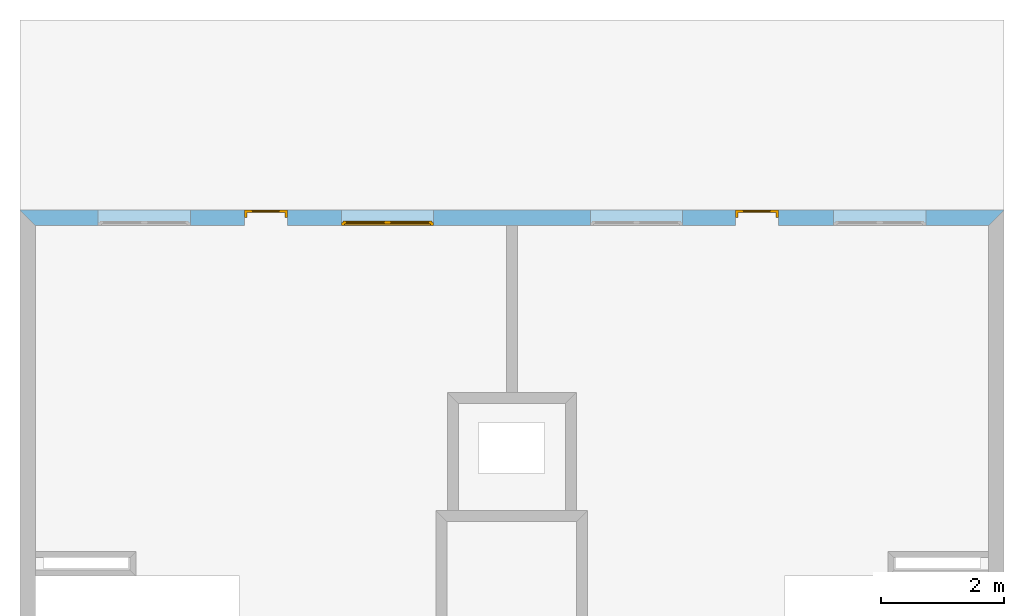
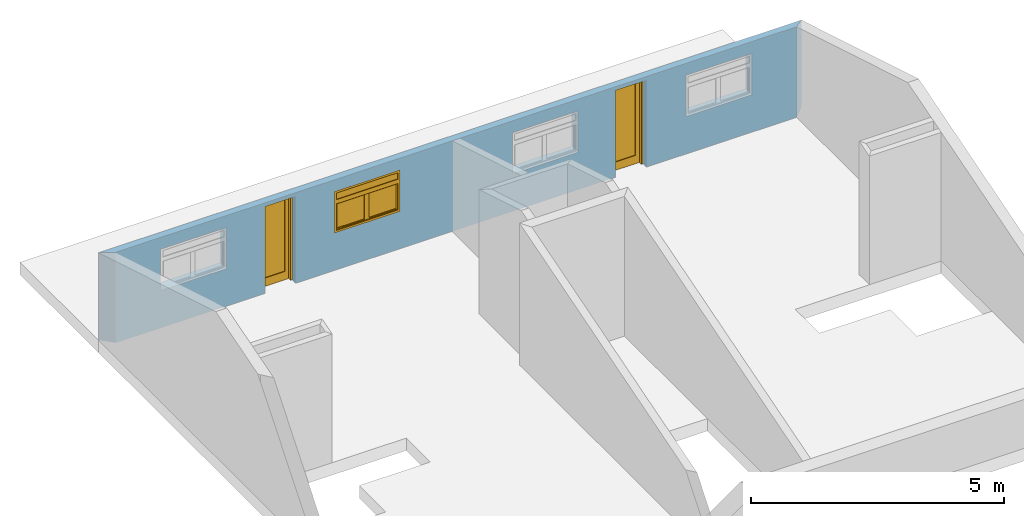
# One storey, part 3 of 3: 2 doors, 1 window, 6 openings, plus 1 element that does not belong to this part.
"""IFC2X3 building model written with IfcOpenShell, lengths in metres."""

from ifc_helpers import new_model, entity, si_unit, converted_unit, direction, frame, frame_2d, origin_with_axes, place, context, project, spatial, polyline, rectangle, outline, extrude, clip, bounded_halfspace, faceted_brep, material, layer, layer_set, layer_usage, type_object, element, fill, save


model = new_model("IFC2X3")

# Units and contexts
context_of_model = context(None, 3, precision=1e-05, world=origin_with_axes(), true_north=direction((6.123234e-17, 1.0)))
plan_context = context("Plan", 3, precision=1e-05, world=origin_with_axes(), true_north=direction((6.123234e-17, 1.0)))
model_context = context("Model", 3, precision=1e-05, world=origin_with_axes(), true_north=direction((6.123234e-17, 1.0)))
ifc_project = project(units=[si_unit("LENGTHUNIT", "METRE"), si_unit("AREAUNIT", "SQUARE_METRE"), si_unit("VOLUMEUNIT", "CUBIC_METRE"), converted_unit("PLANEANGLEUNIT", "DEGREE", entity("IfcPlaneAngleMeasure", 0.017453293), si_unit("PLANEANGLEUNIT", "RADIAN"), dimensions=[0, 0, 0, 0, 0, 0, 0]), si_unit("SOLIDANGLEUNIT", "STERADIAN"), si_unit("MASSUNIT", "GRAM"), si_unit("TIMEUNIT", "SECOND"), si_unit("THERMODYNAMICTEMPERATUREUNIT", "DEGREE_CELSIUS"), si_unit("LUMINOUSINTENSITYUNIT", "LUMEN")], contexts=[context_of_model, plan_context, model_context])

# Site, building, storey
site_placement = place(None, origin_with_axes())
site = spatial("IfcSite", under=ifc_project, at=site_placement, Name="Por defecto Sitio", CompositionType="ELEMENT")
building_placement = place(site_placement, origin_with_axes())
building = spatial("IfcBuilding", under=site, at=building_placement, Name="Por defecto Edificio", CompositionType="ELEMENT")
storey_placement = place(building_placement, frame((0.0, 0.0, 16.2), z_axis=(0.0, 0.0, 1.0), x_axis=(1.0, 0.0, 0.0)))
storey = spatial("IfcBuildingStorey", under=building, at=storey_placement, Name="Bajo cubierta", CompositionType="ELEMENT", Elevation=16.2)

# Wall, openings, doors, window
ifc_material = material(Name="Ladrillo común")
ifc_layer = layer(ifc_material, 0.25, ventilated="UNKNOWN")
ifc_layer_set = layer_set([ifc_layer], Name="Ladrillo común")
ifc_layer_usage = layer_usage(ifc_layer_set, "AXIS2", "POSITIVE", 0.0)
wall_type = type_object("IfcWallType", Name="Ladrillo común", PredefinedType="NOTDEFINED")
wall_placement = place(storey_placement, frame((16.03417, 12.372599, 0.0), z_axis=(0.0, 0.0, 1.0), x_axis=(-1.0, 0.0, 0.0)))
wall = element("IfcWallStandardCase", 1, at=wall_placement, inside=storey, type_object=wall_type, material=ifc_layer_usage, Name="Muro-018", context=context_of_model, shape_type="Clipping", body=[
    clip(extrude(outline(polyline([(0.0, 0.0), (16.03417, 0.0), (15.78417, 0.25), (0.25, 0.25), (0.0, 0.0)])), origin_with_axes(), (0.0, 0.0, 1.0), 3.5), bounded_halfspace(frame((2.9219849e-17, -0.58049391, 1.934887), z_axis=(1.4464632e-17, -0.28736052, 0.95782249), x_axis=(0.0, 0.95782249, 0.28736052)), False, origin_with_axes(), polyline([(16.03417, 4.6362995), (5.6488147e-13, 4.6362995), (5.6488147e-13, -0.40882873), (16.03417, -0.40882873), (16.03417, 4.6362995)]))),
])
opening_1_placement = place(wall_placement, frame((12.028221, 0.0, 0.0), z_axis=(0.0, 0.0, 1.0), x_axis=(1.0, 0.0, 0.0)))
opening_1 = element("IfcOpeningElement", 2, at=opening_1_placement, cuts=wall, ObjectType="Opening", context=model_context, shape_type="SweptSolid", body=[
    extrude(rectangle(XDim=0.7, YDim=2.1, at=frame_2d((0.0, 1.05), x_axis=(-1.0, 0.0))), frame((0.0, 0.0, 0.0), z_axis=(0.0, 1.0, 0.0), x_axis=(-1.0, 0.0, 0.0)), (0.0, 0.0, 1.0), 0.25),
])
opening_2_placement = place(wall_placement, frame((4.0278001, 0.0, 0.0), z_axis=(0.0, 0.0, 1.0), x_axis=(1.0, 0.0, 0.0)))
opening_2 = element("IfcOpeningElement", 3, at=opening_2_placement, cuts=wall, ObjectType="Opening", context=model_context, shape_type="SweptSolid", body=[
    extrude(rectangle(XDim=0.7, YDim=2.1, at=frame_2d((0.0, 1.05), x_axis=(-1.0, 0.0))), frame((0.0, 0.0, 0.0), z_axis=(0.0, 1.0, 0.0), x_axis=(-1.0, 0.0, 0.0)), (0.0, 0.0, 1.0), 0.25),
])
opening_3_placement = place(wall_placement, frame((5.9881821, 0.0, 0.9), z_axis=(0.0, 0.0, 1.0), x_axis=(1.0, 0.0, 0.0)))
element("IfcOpeningElement", 4, at=opening_3_placement, cuts=wall, ObjectType="Opening", context=model_context, shape_type="SweptSolid", body=[
    extrude(rectangle(XDim=1.5, YDim=1.0, at=frame_2d((0.0, 0.5), x_axis=(1.0, 0.0))), frame((0.0, 0.0, 0.0), z_axis=(0.0, 1.0, 0.0), x_axis=(-1.0, 0.0, 0.0)), (0.0, 0.0, 1.0), 0.25),
])
opening_4_placement = place(wall_placement, frame((2.024733, 0.0, 0.9), z_axis=(0.0, 0.0, 1.0), x_axis=(1.0, 0.0, 0.0)))
element("IfcOpeningElement", 5, at=opening_4_placement, cuts=wall, ObjectType="Opening", context=model_context, shape_type="SweptSolid", body=[
    extrude(rectangle(XDim=1.5, YDim=1.0, at=frame_2d((0.0, 0.5), x_axis=(-1.0, 0.0))), frame((0.0, 0.0, 0.0), z_axis=(0.0, 1.0, 0.0), x_axis=(-1.0, 0.0, 0.0)), (0.0, 0.0, 1.0), 0.25),
])
opening_5_placement = place(wall_placement, frame((10.046584, 0.0, 0.9), z_axis=(0.0, 0.0, 1.0), x_axis=(1.0, 0.0, 0.0)))
opening_5 = element("IfcOpeningElement", 6, at=opening_5_placement, cuts=wall, ObjectType="Opening", context=model_context, shape_type="SweptSolid", body=[
    extrude(rectangle(XDim=1.5, YDim=1.0, at=frame_2d((0.0, 0.5), x_axis=(-1.0, 0.0))), frame((0.0, 0.0, 0.0), z_axis=(0.0, 1.0, 0.0), x_axis=(-1.0, 0.0, 0.0)), (0.0, 0.0, 1.0), 0.25),
])
opening_6_placement = place(wall_placement, frame((14.009437, 0.0, 0.9), z_axis=(0.0, 0.0, 1.0), x_axis=(1.0, 0.0, 0.0)))
element("IfcOpeningElement", 7, at=opening_6_placement, cuts=wall, ObjectType="Opening", context=model_context, shape_type="SweptSolid", body=[
    extrude(rectangle(XDim=1.5, YDim=1.0, at=frame_2d((0.0, 0.5), x_axis=(1.0, 0.0))), frame((0.0, 0.0, 0.0), z_axis=(0.0, 1.0, 0.0), x_axis=(-1.0, 0.0, 0.0)), (0.0, 0.0, 1.0), 0.25),
])
door_style_1 = type_object("IfcDoorStyle", Name="P1 12", ConstructionType="NOTDEFINED", OperationType="SINGLE_SWING_RIGHT", ParameterTakesPrecedence=False, Sizeable=False)
door_1_placement = place(opening_1_placement, frame((0.35, 0.115, 0.0), z_axis=(0.0, 0.0, 1.0), x_axis=(-1.0, 0.0, 0.0)))
door_1 = element("IfcDoor", 8, at=door_1_placement, inside=storey, type_object=door_style_1, Name="P20", OverallHeight=2.1, OverallWidth=0.7, context=model_context, shape_type="Brep", body=[
    faceted_brep([(0.04, 0.075, 0.0), (0.04, 0.075, 2.06), (0.04, 1.7763568e-15, 2.06), (0.04, 1.7763568e-15, 0.0), (0.028, 0.075, 2.06), (0.028, 0.075, 0.0), (0.028, 0.115, 2.06), (-4.4408921e-16, 0.115, 2.06), (-4.4408921e-16, 1.7763568e-15, 2.06), (0.0, 0.0, 0.0), (-4.4408921e-16, 0.115, 0.0), (0.028, 0.115, 0.0)], [[[0, 1, 2, 3]], [[4, 1, 0, 5]], [[4, 6, 7, 8, 2, 1]], [[9, 3, 2, 8]], [[5, 0, 3, 9, 10, 11]], [[6, 4, 5, 11]], [[6, 11, 10, 7]], [[8, 7, 10, 9]]]),
    faceted_brep([(0.672, 0.075, 2.06), (0.66, 0.075, 2.06), (0.66, 1.7763568e-15, 2.06), (0.7, 1.7763568e-15, 2.06), (0.7, 0.115, 2.06), (0.672, 0.115, 2.06), (0.672, 0.075, 0.0), (0.66, 0.075, 0.0), (0.66, 1.7763568e-15, 0.0), (0.7, 1.7763568e-15, 0.0), (0.7, 0.115, 0.0), (0.672, 0.115, 0.0)], [[[0, 1, 2, 3, 4, 5]], [[1, 0, 6, 7]], [[1, 7, 8, 2]], [[8, 9, 3, 2]], [[9, 10, 4, 3]], [[11, 5, 4, 10]], [[0, 5, 11, 6]], [[6, 11, 10, 9, 8, 7]]]),
    faceted_brep([(0.028, 0.115, 2.072), (0.028, 0.115, 2.06), (-4.4408921e-16, 0.115, 2.06), (-4.4408921e-16, 0.115, 2.1), (0.7, 0.115, 2.1), (0.7, 0.115, 2.06), (0.672, 0.115, 2.06), (0.672, 0.115, 2.072), (0.028, 0.075, 2.072), (0.028, 0.075, 2.06), (0.04, 0.075, 2.06), (0.04, 1.7763568e-15, 2.06), (-4.4408921e-16, 1.7763568e-15, 2.06), (-4.4408921e-16, 1.7763568e-15, 2.1), (0.7, 1.7763568e-15, 2.1), (0.7, 1.7763568e-15, 2.06), (0.672, 0.075, 2.06), (0.66, 1.7763568e-15, 2.06), (0.66, 0.075, 2.06), (0.672, 0.075, 2.072)], [[[0, 1, 2, 3, 4, 5, 6, 7]], [[1, 0, 8, 9]], [[9, 10, 11, 12, 2, 1]], [[13, 3, 2, 12]], [[14, 4, 3, 13]], [[15, 5, 4, 14]], [[16, 6, 5, 15, 17, 18]], [[7, 6, 16, 19]], [[0, 7, 19, 8]], [[16, 18, 10, 9, 8, 19]], [[10, 18, 17, 11]], [[14, 13, 12, 11, 17, 15]]]),
    faceted_brep([(0.672, 0.115, 0.2), (0.672, 0.075, 0.2), (0.572, 0.075, 0.2), (0.572, 0.115, 0.2), (0.672, 0.115, 1.972), (0.672, 0.075, 1.972), (0.572, 0.075, 1.972), (0.572, 0.115, 1.972)], [[[0, 1, 2, 3]], [[4, 5, 1, 0]], [[1, 5, 6, 2]], [[3, 2, 6, 7]], [[0, 3, 7, 4]], [[7, 6, 5, 4]]]),
    faceted_brep([(0.028, 0.115, 0.2), (0.028, 0.075, 0.2), (0.028, 0.075, 1.972), (0.028, 0.115, 1.972), (0.128, 0.115, 0.2), (0.128, 0.075, 0.2), (0.128, 0.075, 1.972), (0.128, 0.115, 1.972)], [[[0, 1, 2, 3]], [[4, 5, 1, 0]], [[1, 5, 6, 2]], [[3, 2, 6, 7]], [[0, 3, 7, 4]], [[7, 6, 5, 4]]]),
    faceted_brep([(0.672, 0.115, 0.0), (0.672, 0.075, 0.0), (0.028, 0.075, 0.0), (0.028, 0.115, 0.0), (0.672, 0.115, 0.2), (0.672, 0.075, 0.2), (0.572, 0.075, 0.2), (0.128, 0.075, 0.2), (0.028, 0.075, 0.2), (0.028, 0.115, 0.2), (0.128, 0.115, 0.2), (0.572, 0.115, 0.2)], [[[0, 1, 2, 3]], [[4, 5, 1, 0]], [[1, 5, 6, 7, 8, 2]], [[3, 2, 8, 9]], [[0, 3, 9, 10, 11, 4]], [[11, 6, 5, 4]], [[10, 7, 6, 11]], [[9, 8, 7, 10]]]),
    faceted_brep([(0.672, 0.115, 2.072), (0.672, 0.075, 2.072), (0.672, 0.075, 1.972), (0.672, 0.115, 1.972), (0.028, 0.115, 2.072), (0.028, 0.075, 2.072), (0.028, 0.075, 1.972), (0.128, 0.075, 1.972), (0.572, 0.075, 1.972), (0.572, 0.115, 1.972), (0.128, 0.115, 1.972), (0.028, 0.115, 1.972)], [[[0, 1, 2, 3]], [[4, 5, 1, 0]], [[1, 5, 6, 7, 8, 2]], [[3, 2, 8, 9]], [[0, 3, 9, 10, 11, 4]], [[11, 6, 5, 4]], [[10, 7, 6, 11]], [[9, 8, 7, 10]]]),
    faceted_brep([(0.572, 0.101, 0.2), (0.572, 0.089, 0.2), (0.128, 0.089, 0.2), (0.128, 0.101, 0.2), (0.572, 0.101, 1.972), (0.572, 0.089, 1.972), (0.128, 0.089, 1.972), (0.128, 0.101, 1.972)], [[[0, 1, 2, 3]], [[4, 5, 1, 0]], [[1, 5, 6, 2]], [[3, 2, 6, 7]], [[0, 3, 7, 4]], [[7, 6, 5, 4]]]),
])
fill(opening_1, door_1)
door_style_2 = type_object("IfcDoorStyle", Name="P1 12", ConstructionType="NOTDEFINED", OperationType="SINGLE_SWING_LEFT", ParameterTakesPrecedence=False, Sizeable=False)
door_2_placement = place(opening_2_placement, frame((0.35, 0.115, 0.0), z_axis=(0.0, 0.0, 1.0), x_axis=(-1.0, 0.0, 0.0)))
door_2 = element("IfcDoor", 9, at=door_2_placement, inside=storey, type_object=door_style_2, Name="P21", OverallHeight=2.1, OverallWidth=0.7, context=model_context, shape_type="Brep", body=[
    faceted_brep([(0.66, 0.075, 0.0), (0.66, 0.0, 0.0), (0.66, 0.0, 2.06), (0.66, 0.075, 2.06), (0.672, 0.075, 0.0), (0.672, 0.115, 0.0), (0.7, 0.115, 0.0), (0.7, 0.0, 0.0), (0.7, 0.0, 2.06), (0.672, 0.075, 2.06), (0.7, 0.115, 2.06), (0.672, 0.115, 2.06)], [[[0, 1, 2, 3]], [[4, 5, 6, 7, 1, 0]], [[7, 8, 2, 1]], [[9, 3, 2, 8, 10, 11]], [[9, 4, 0, 3]], [[11, 5, 4, 9]], [[11, 10, 6, 5]], [[8, 7, 6, 10]]]),
    faceted_brep([(0.028, 0.075, 2.06), (0.028, 0.115, 2.06), (0.0, 0.115, 2.06), (0.0, 0.0, 2.06), (0.04, 0.0, 2.06), (0.04, 0.075, 2.06), (0.028, 0.075, 0.0), (0.028, 0.115, 0.0), (0.0, 0.115, 0.0), (0.0, 0.0, 0.0), (0.04, 0.0, 0.0), (0.04, 0.075, 0.0)], [[[0, 1, 2, 3, 4, 5]], [[0, 6, 7, 1]], [[7, 8, 2, 1]], [[9, 3, 2, 8]], [[10, 4, 3, 9]], [[5, 4, 10, 11]], [[5, 11, 6, 0]], [[6, 11, 10, 9, 8, 7]]]),
    faceted_brep([(0.672, 0.115, 2.072), (0.028, 0.115, 2.072), (0.028, 0.115, 2.06), (0.0, 0.115, 2.06), (0.0, 0.115, 2.1), (0.7, 0.115, 2.1), (0.7, 0.115, 2.06), (0.672, 0.115, 2.06), (0.672, 0.075, 2.072), (0.028, 0.075, 2.072), (0.028, 0.075, 2.06), (0.04, 0.075, 2.06), (0.04, 0.0, 2.06), (0.0, 0.0, 2.06), (0.0, 0.0, 2.1), (0.7, 0.0, 2.1), (0.7, 0.0, 2.06), (0.672, 0.075, 2.06), (0.66, 0.0, 2.06), (0.66, 0.075, 2.06)], [[[0, 1, 2, 3, 4, 5, 6, 7]], [[0, 8, 9, 1]], [[1, 9, 10, 2]], [[10, 11, 12, 13, 3, 2]], [[13, 14, 4, 3]], [[14, 15, 5, 4]], [[15, 16, 6, 5]], [[17, 7, 6, 16, 18, 19]], [[7, 17, 8, 0]], [[10, 9, 8, 17, 19, 11]], [[19, 18, 12, 11]], [[14, 13, 12, 18, 16, 15]]]),
    faceted_brep([(0.028, 0.115, 0.2), (0.128, 0.115, 0.2), (0.128, 0.075, 0.2), (0.028, 0.075, 0.2), (0.028, 0.115, 1.972), (0.128, 0.115, 1.972), (0.128, 0.075, 1.972), (0.028, 0.075, 1.972)], [[[0, 1, 2, 3]], [[0, 4, 5, 1]], [[1, 5, 6, 2]], [[3, 2, 6, 7]], [[4, 0, 3, 7]], [[5, 4, 7, 6]]]),
    faceted_brep([(0.672, 0.115, 0.2), (0.672, 0.115, 1.972), (0.672, 0.075, 1.972), (0.672, 0.075, 0.2), (0.572, 0.115, 0.2), (0.572, 0.115, 1.972), (0.572, 0.075, 1.972), (0.572, 0.075, 0.2)], [[[0, 1, 2, 3]], [[0, 4, 5, 1]], [[1, 5, 6, 2]], [[3, 2, 6, 7]], [[4, 0, 3, 7]], [[5, 4, 7, 6]]]),
    faceted_brep([(0.028, 0.115, 0.0), (0.672, 0.115, 0.0), (0.672, 0.075, 0.0), (0.028, 0.075, 0.0), (0.028, 0.115, 0.2), (0.128, 0.115, 0.2), (0.572, 0.115, 0.2), (0.672, 0.115, 0.2), (0.672, 0.075, 0.2), (0.572, 0.075, 0.2), (0.128, 0.075, 0.2), (0.028, 0.075, 0.2)], [[[0, 1, 2, 3]], [[0, 4, 5, 6, 7, 1]], [[1, 7, 8, 2]], [[3, 2, 8, 9, 10, 11]], [[4, 0, 3, 11]], [[5, 4, 11, 10]], [[6, 5, 10, 9]], [[7, 6, 9, 8]]]),
    faceted_brep([(0.028, 0.115, 2.072), (0.028, 0.115, 1.972), (0.028, 0.075, 1.972), (0.028, 0.075, 2.072), (0.672, 0.115, 2.072), (0.672, 0.115, 1.972), (0.572, 0.115, 1.972), (0.128, 0.115, 1.972), (0.128, 0.075, 1.972), (0.572, 0.075, 1.972), (0.672, 0.075, 1.972), (0.672, 0.075, 2.072)], [[[0, 1, 2, 3]], [[0, 4, 5, 6, 7, 1]], [[1, 7, 8, 2]], [[3, 2, 8, 9, 10, 11]], [[4, 0, 3, 11]], [[5, 4, 11, 10]], [[6, 5, 10, 9]], [[7, 6, 9, 8]]]),
    faceted_brep([(0.128, 0.101, 0.2), (0.572, 0.101, 0.2), (0.572, 0.089, 0.2), (0.128, 0.089, 0.2), (0.128, 0.101, 1.972), (0.572, 0.101, 1.972), (0.572, 0.089, 1.972), (0.128, 0.089, 1.972)], [[[0, 1, 2, 3]], [[0, 4, 5, 1]], [[1, 5, 6, 2]], [[3, 2, 6, 7]], [[4, 0, 3, 7]], [[5, 4, 7, 6]]]),
])
fill(opening_2, door_2)
window_style = type_object("IfcWindowStyle", Name="V M Doble 12", ConstructionType="NOTDEFINED", OperationType="DOUBLE_PANEL_HORIZONTAL", ParameterTakesPrecedence=False, Sizeable=False)
window_placement = place(opening_5_placement, frame((0.75, 0.25, 0.0), z_axis=(0.0, 0.0, 1.0), x_axis=(-1.0, 0.0, 0.0)))
window = element("IfcWindow", 10, at=window_placement, inside=storey, type_object=window_style, Name="V07", OverallHeight=1.0, OverallWidth=1.5, context=model_context, shape_type="Brep", body=[
    faceted_brep([(1.475, 0.05, 0.05), (1.475, 0.05, 0.715), (1.45, 0.05, 0.715), (1.45, 0.05, 0.79), (1.45, 0.05, 0.95), (1.5, 0.05, 0.95), (1.5, 0.05, 0.05), (1.475, 0.025, 0.05), (1.475, 0.025, 0.715), (1.45, 0.025, 0.715), (1.45, 0.025, 0.69), (1.45, 1.7763568e-15, 0.69), (1.45, 1.7763568e-15, 0.79), (1.45, 1.7763568e-15, 0.95), (1.5, 1.7763568e-15, 0.95), (1.5, 1.7763568e-15, 0.05), (1.45, 1.7763568e-15, 0.05), (1.45, 0.025, 0.05)], [[[0, 1, 2, 3, 4, 5, 6]], [[1, 0, 7, 8]], [[9, 2, 1, 8]], [[9, 10, 11, 12, 3, 2]], [[3, 12, 13, 4]], [[4, 13, 14, 5]], [[5, 14, 15, 6]], [[7, 0, 6, 15, 16, 17]], [[10, 9, 8, 7, 17]], [[10, 17, 16, 11]], [[12, 11, 16, 15, 14, 13]]]),
    faceted_brep([(0.025, 0.05, 0.715), (0.025, 0.05, 0.05), (0.0, 0.05, 0.05), (0.0, 0.05, 0.95), (0.05, 0.05, 0.95), (0.05, 0.05, 0.79), (0.05, 0.05, 0.715), (0.025, 0.025, 0.715), (0.025, 0.025, 0.05), (0.05, 0.025, 0.05), (0.05, 1.7763568e-15, 0.05), (0.0, 1.7763568e-15, 0.05), (0.0, 1.7763568e-15, 0.95), (0.05, 1.7763568e-15, 0.95), (0.05, 1.7763568e-15, 0.79), (0.05, 0.025, 0.715), (0.05, 1.7763568e-15, 0.69), (0.05, 0.025, 0.69)], [[[0, 1, 2, 3, 4, 5, 6]], [[1, 0, 7, 8]], [[8, 9, 10, 11, 2, 1]], [[2, 11, 12, 3]], [[3, 12, 13, 4]], [[4, 13, 14, 5]], [[15, 6, 5, 14, 16, 17]], [[0, 6, 15, 7]], [[9, 8, 7, 15, 17]], [[9, 17, 16, 10]], [[11, 10, 16, 14, 13, 12]]]),
    faceted_brep([(1.45, 0.05, 0.715), (0.75, 0.05, 0.715), (0.05, 0.05, 0.715), (0.05, 0.05, 0.79), (1.45, 0.05, 0.79), (1.45, 0.025, 0.715), (0.75, 0.025, 0.715), (0.05, 0.025, 0.715), (0.05, 0.025, 0.69), (0.05, 1.7763568e-15, 0.69), (0.05, 1.7763568e-15, 0.79), (1.45, 1.7763568e-15, 0.79), (1.45, 1.7763568e-15, 0.69), (1.45, 0.025, 0.69)], [[[0, 1, 2, 3, 4]], [[1, 0, 5, 6]], [[7, 2, 1, 6]], [[7, 8, 9, 10, 3, 2]], [[3, 10, 11, 4]], [[5, 0, 4, 11, 12, 13]], [[8, 7, 6, 5, 13]], [[8, 13, 12, 9]], [[10, 9, 12, 11]]]),
    faceted_brep([(0.05, 0.025, 0.05), (0.025, 0.025, 0.05), (0.025, 0.05, 0.05), (0.0, 0.05, 0.05), (0.0, 1.7763568e-15, 0.05), (0.05, 1.7763568e-15, 0.05), (1.45, 0.025, 0.05), (1.475, 0.025, 0.05), (1.475, 0.025, 0.025), (0.75, 0.025, 0.025), (0.025, 0.025, 0.025), (0.025, 0.05, 0.025), (1.475, 0.05, 0.025), (1.475, 0.05, 0.05), (1.5, 0.05, 0.05), (1.5, 0.05, 0.0), (0.0, 0.05, 0.0), (0.75, 0.05, 0.025), (0.0, 0.0, 0.0), (1.5, 1.7763568e-15, 0.05), (1.45, 1.7763568e-15, 0.05), (1.5, 1.7763568e-15, 0.0)], [[[0, 1, 2, 3, 4, 5]], [[1, 0, 6, 7, 8, 9, 10]], [[11, 2, 1, 10]], [[12, 13, 14, 15, 16, 3, 2, 11, 17]], [[16, 18, 4, 3]], [[19, 20, 5, 4, 18, 21]], [[6, 0, 5, 20]], [[7, 6, 20, 19, 14, 13]], [[7, 13, 12, 8]], [[12, 17, 9, 8]], [[17, 11, 10, 9]], [[14, 19, 21, 15]], [[15, 21, 18, 16]]]),
    faceted_brep([(0.05, 1.7763568e-15, 0.95), (0.0, 1.7763568e-15, 0.95), (0.0, 0.05, 0.95), (0.05, 0.05, 0.95), (1.45, 1.7763568e-15, 0.95), (1.5, 1.7763568e-15, 0.95), (1.5, 1.7763568e-15, 1.0), (0.0, 1.7763568e-15, 1.0), (0.0, 0.05, 1.0), (1.5, 0.05, 1.0), (1.5, 0.05, 0.95), (1.45, 0.05, 0.95)], [[[0, 1, 2, 3]], [[0, 4, 5, 6, 7, 1]], [[1, 7, 8, 2]], [[3, 2, 8, 9, 10, 11]], [[4, 0, 3, 11]], [[5, 4, 11, 10]], [[6, 5, 10, 9]], [[7, 6, 9, 8]]]),
    faceted_brep([(0.075, 0.025, 0.075), (0.075, 0.075, 0.075), (0.075, 0.075, 0.665), (0.075, 0.025, 0.665), (0.025, 0.025, 0.075), (0.025, 0.075, 0.075), (0.025, 0.075, 0.665), (0.025, 0.025, 0.665)], [[[0, 1, 2, 3]], [[4, 5, 1, 0]], [[1, 5, 6, 2]], [[3, 2, 6, 7]], [[0, 3, 7, 4]], [[7, 6, 5, 4]]]),
    faceted_brep([(0.75, 0.025, 0.075), (0.75, 0.075, 0.075), (0.75, 0.075, 0.665), (0.75, 0.025, 0.665), (0.7, 0.025, 0.075), (0.7, 0.075, 0.075), (0.7, 0.075, 0.665), (0.7, 0.025, 0.665)], [[[0, 1, 2, 3]], [[4, 5, 1, 0]], [[1, 5, 6, 2]], [[3, 2, 6, 7]], [[0, 3, 7, 4]], [[7, 6, 5, 4]]]),
    faceted_brep([(0.75, 0.025, 0.025), (0.75, 0.075, 0.025), (0.75, 0.075, 0.075), (0.75, 0.025, 0.075), (0.025, 0.025, 0.025), (0.025, 0.075, 0.025), (0.025, 0.075, 0.075), (0.075, 0.075, 0.075), (0.7, 0.075, 0.075), (0.7, 0.025, 0.075), (0.075, 0.025, 0.075), (0.025, 0.025, 0.075)], [[[0, 1, 2, 3]], [[4, 5, 1, 0]], [[1, 5, 6, 7, 8, 2]], [[3, 2, 8, 9]], [[0, 3, 9, 10, 11, 4]], [[11, 6, 5, 4]], [[10, 7, 6, 11]], [[9, 8, 7, 10]]]),
    faceted_brep([(0.025, 0.025, 0.715), (0.025, 0.075, 0.715), (0.025, 0.075, 0.665), (0.025, 0.025, 0.665), (0.75, 0.025, 0.715), (0.75, 0.075, 0.715), (0.75, 0.075, 0.665), (0.7, 0.075, 0.665), (0.075, 0.075, 0.665), (0.075, 0.025, 0.665), (0.7, 0.025, 0.665), (0.75, 0.025, 0.665)], [[[0, 1, 2, 3]], [[4, 5, 1, 0]], [[1, 5, 6, 7, 8, 2]], [[3, 2, 8, 9]], [[0, 3, 9, 10, 11, 4]], [[11, 6, 5, 4]], [[10, 7, 6, 11]], [[9, 8, 7, 10]]]),
    faceted_brep([(0.075, 0.04, 0.075), (0.075, 0.06, 0.075), (0.7, 0.06, 0.075), (0.7, 0.04, 0.075), (0.075, 0.04, 0.665), (0.075, 0.06, 0.665), (0.7, 0.06, 0.665), (0.7, 0.04, 0.665)], [[[0, 1, 2, 3]], [[4, 5, 1, 0]], [[1, 5, 6, 2]], [[3, 2, 6, 7]], [[0, 3, 7, 4]], [[7, 6, 5, 4]]]),
    faceted_brep([(0.8, 0.025, 0.075), (0.8, 0.075, 0.075), (0.8, 0.075, 0.665), (0.8, 0.025, 0.665), (0.75, 0.025, 0.075), (0.75, 0.075, 0.075), (0.75, 0.075, 0.665), (0.75, 0.025, 0.665)], [[[0, 1, 2, 3]], [[4, 5, 1, 0]], [[1, 5, 6, 2]], [[3, 2, 6, 7]], [[0, 3, 7, 4]], [[7, 6, 5, 4]]]),
    faceted_brep([(1.475, 0.025, 0.075), (1.475, 0.075, 0.075), (1.475, 0.075, 0.665), (1.475, 0.025, 0.665), (1.425, 0.025, 0.075), (1.425, 0.075, 0.075), (1.425, 0.075, 0.665), (1.425, 0.025, 0.665)], [[[0, 1, 2, 3]], [[4, 5, 1, 0]], [[1, 5, 6, 2]], [[3, 2, 6, 7]], [[0, 3, 7, 4]], [[7, 6, 5, 4]]]),
    faceted_brep([(1.475, 0.025, 0.025), (1.475, 0.075, 0.025), (1.475, 0.075, 0.075), (1.475, 0.025, 0.075), (0.75, 0.025, 0.025), (0.75, 0.075, 0.025), (0.75, 0.075, 0.075), (0.8, 0.075, 0.075), (1.425, 0.075, 0.075), (1.425, 0.025, 0.075), (0.8, 0.025, 0.075), (0.75, 0.025, 0.075)], [[[0, 1, 2, 3]], [[4, 5, 1, 0]], [[1, 5, 6, 7, 8, 2]], [[3, 2, 8, 9]], [[0, 3, 9, 10, 11, 4]], [[11, 6, 5, 4]], [[10, 7, 6, 11]], [[9, 8, 7, 10]]]),
    faceted_brep([(0.75, 0.025, 0.715), (0.75, 0.075, 0.715), (0.75, 0.075, 0.665), (0.75, 0.025, 0.665), (1.475, 0.025, 0.715), (1.475, 0.075, 0.715), (1.475, 0.075, 0.665), (1.425, 0.075, 0.665), (0.8, 0.075, 0.665), (0.8, 0.025, 0.665), (1.425, 0.025, 0.665), (1.475, 0.025, 0.665)], [[[0, 1, 2, 3]], [[4, 5, 1, 0]], [[1, 5, 6, 7, 8, 2]], [[3, 2, 8, 9]], [[0, 3, 9, 10, 11, 4]], [[11, 6, 5, 4]], [[10, 7, 6, 11]], [[9, 8, 7, 10]]]),
    faceted_brep([(0.8, 0.04, 0.075), (0.8, 0.06, 0.075), (1.425, 0.06, 0.075), (1.425, 0.04, 0.075), (0.8, 0.04, 0.665), (0.8, 0.06, 0.665), (1.425, 0.06, 0.665), (1.425, 0.04, 0.665)], [[[0, 1, 2, 3]], [[4, 5, 1, 0]], [[1, 5, 6, 2]], [[3, 2, 6, 7]], [[0, 3, 7, 4]], [[7, 6, 5, 4]]]),
    faceted_brep([(0.05, 0.015, 0.79), (0.05, 0.035, 0.79), (1.45, 0.035, 0.79), (1.45, 0.015, 0.79), (0.05, 0.015, 0.95), (0.05, 0.035, 0.95), (1.45, 0.035, 0.95), (1.45, 0.015, 0.95)], [[[0, 1, 2, 3]], [[4, 5, 1, 0]], [[1, 5, 6, 2]], [[3, 2, 6, 7]], [[0, 3, 7, 4]], [[7, 6, 5, 4]]]),
])
fill(opening_5, window)

save(model, "model.ifc")
